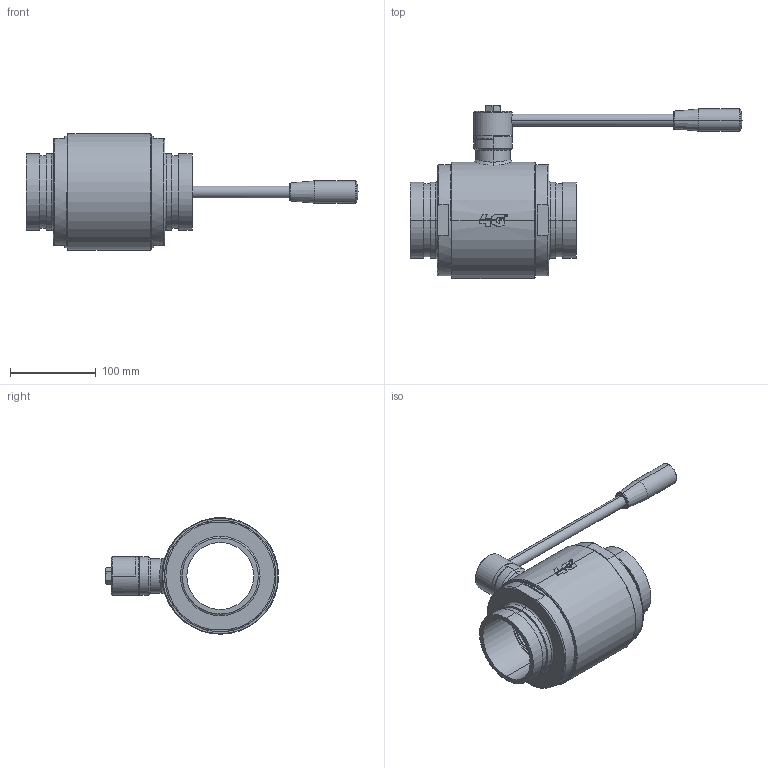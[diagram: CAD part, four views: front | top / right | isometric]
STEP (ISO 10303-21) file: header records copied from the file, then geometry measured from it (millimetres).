
FILE_DESCRIPTION((''),'2;1');
FILE_NAME('21016064810_SW0001','2025-07-30T10:29:59',('tecnico2'),('CDM Tecnoconsulting'),'CREO PARAMETRIC BY PTC INC, 2024063','CREO PARAMETRIC BY PTC INC, 2024063','');
FILE_SCHEMA(('CONFIG_CONTROL_DESIGN','SHAPE_APPEARANCE_LAYERS_GROUPS'));
Products named in the file (1): 21016064810_SW0001
Bounding box: 387.5 x 202 x 136 mm (x, y, z)
Volume: 1313004.8 mm3; surface area: 262023.9 mm2
Topology: 1 solids, 1 shells, 688 faces, 1880 edges, 1198 vertices
Faces by surface type: plane 308, cylinder 145, cone 88, extrusion 56, bspline 51, torus 34, sphere 6
Entity records: 53749 total; most frequent: CARTESIAN_POINT 31022, ORIENTED_EDGE 3724, DIRECTION 3103, PRESENTATION_STYLE_ASSIGNMENT 1912, STYLED_ITEM 1863, CURVE_STYLE 1862, EDGE_CURVE 1862, VERTEX_POINT 1198
